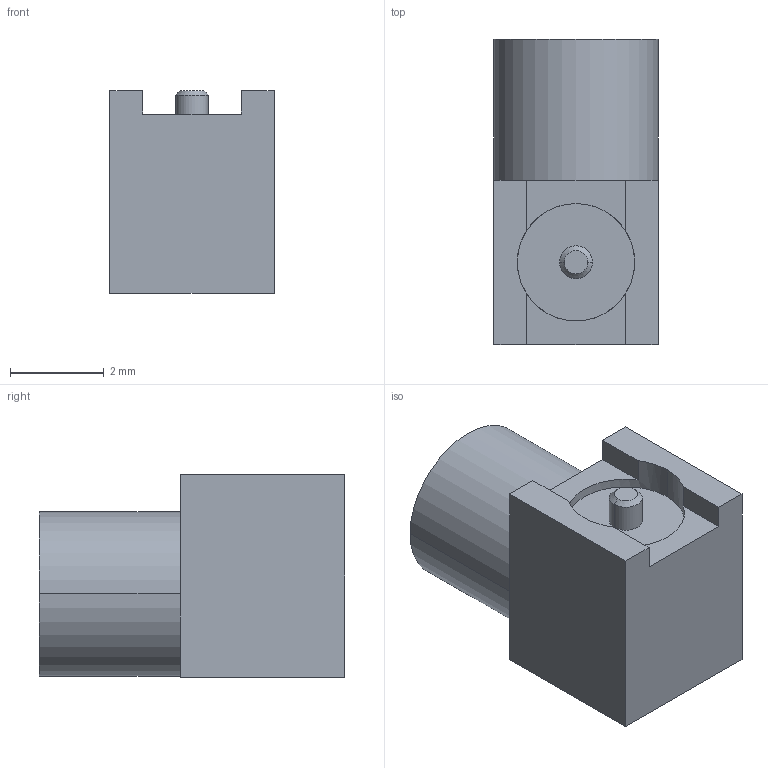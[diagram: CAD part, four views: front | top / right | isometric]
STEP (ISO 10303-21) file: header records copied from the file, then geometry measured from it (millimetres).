
FILE_DESCRIPTION((''),'2;1');
FILE_NAME('GPS-ANT-EXT-25109_PRT','2008-06-30T',('GRA'),(''),'PRO/ENGINEER BY PARAMETRIC TECHNOLOGY CORPORATION, 2006170','PRO/ENGINEER BY PARAMETRIC TECHNOLOGY CORPORATION, 2006170','');
FILE_SCHEMA(('CONFIG_CONTROL_DESIGN'));
Length unit declared in the file: millimetre
Products named in the file (1): GPS-ANT-EXT-25109_PRT
Bounding box: 3.5 x 6.5 x 4.32 mm (x, y, z)
Volume: 77.2 mm3; surface area: 122.4 mm2
Topology: 1 solids, 1 shells, 25 faces, 60 edges, 38 vertices
Faces by surface type: plane 17, cylinder 6, cone 2
Entity records: 762 total; most frequent: DIRECTION 128, CARTESIAN_POINT 123, ORIENTED_EDGE 120, EDGE_CURVE 60, AXIS2_PLACEMENT_3D 43, VECTOR 42, LINE 42, VERTEX_POINT 38
